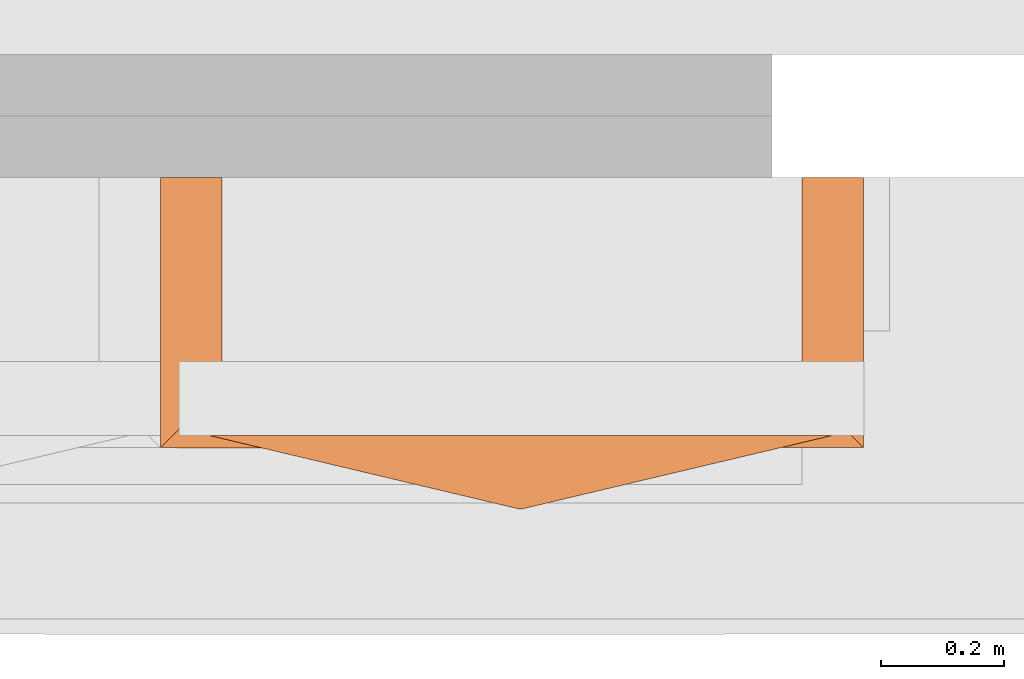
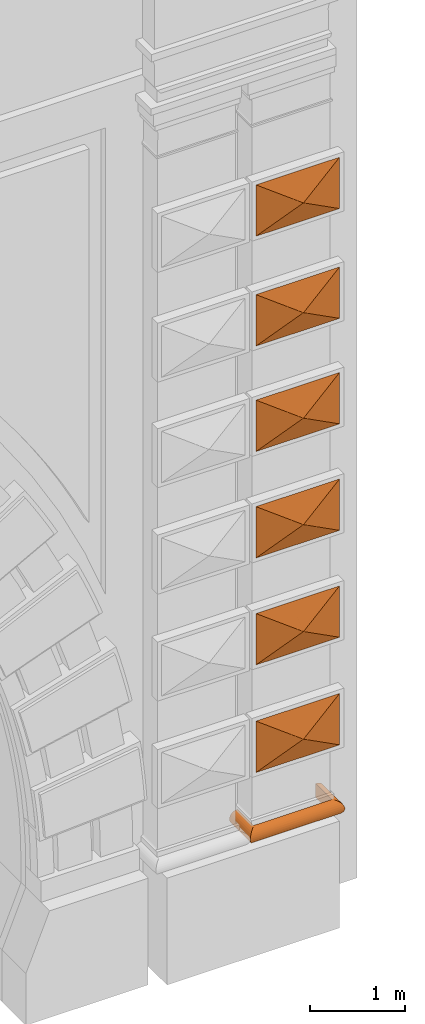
# One storey, part 43 of 44: 7 proxies.
"""IFC2X3 building model written with IfcOpenShell, lengths in metres."""

from ifc_helpers import new_model, entity, si_unit, converted_unit, derived_unit, direction, frame, origin, place, context, subcontext, project, spatial, faceted_brep, material, element, save


model = new_model("IFC2X3")

# Units and contexts
model_context = context("Model", 3, precision=1e-05, world=origin(), true_north=direction((6.12303176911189e-17, 1.0)))
body_context = subcontext(model_context, "Body", "Model", "MODEL_VIEW")
ifc_project = project(units=[si_unit("LENGTHUNIT", "METRE"), si_unit("AREAUNIT", "SQUARE_METRE"), si_unit("VOLUMEUNIT", "CUBIC_METRE"), converted_unit("PLANEANGLEUNIT", "DEGREE", entity("IfcRatioMeasure", 0.0174532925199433), si_unit("PLANEANGLEUNIT", "RADIAN"), dimensions=[0, 0, 0, 0, 0, 0, 0]), si_unit("MASSUNIT", "GRAM", prefix="KILO"), derived_unit("MASSDENSITYUNIT", [(si_unit("MASSUNIT", "GRAM", prefix="KILO"), 1), (si_unit("LENGTHUNIT", "METRE"), -3)]), si_unit("TIMEUNIT", "SECOND"), si_unit("FREQUENCYUNIT", "HERTZ"), si_unit("THERMODYNAMICTEMPERATUREUNIT", "DEGREE_CELSIUS"), derived_unit("THERMALTRANSMITTANCEUNIT", [(si_unit("MASSUNIT", "GRAM", prefix="KILO"), 1), (si_unit("THERMODYNAMICTEMPERATUREUNIT", "KELVIN"), -1), (si_unit("TIMEUNIT", "SECOND"), -3)]), derived_unit("VOLUMETRICFLOWRATEUNIT", [(si_unit("LENGTHUNIT", "METRE"), 3), (si_unit("TIMEUNIT", "SECOND"), -1)]), si_unit("ELECTRICCURRENTUNIT", "AMPERE"), si_unit("ELECTRICVOLTAGEUNIT", "VOLT"), si_unit("POWERUNIT", "WATT"), si_unit("FORCEUNIT", "NEWTON", prefix="KILO"), si_unit("ILLUMINANCEUNIT", "LUX"), si_unit("LUMINOUSFLUXUNIT", "LUMEN"), si_unit("LUMINOUSINTENSITYUNIT", "CANDELA"), derived_unit("USERDEFINED", [(si_unit("MASSUNIT", "GRAM", prefix="KILO"), -1), (si_unit("LENGTHUNIT", "METRE"), -2), (si_unit("TIMEUNIT", "SECOND"), 3), (si_unit("LUMINOUSFLUXUNIT", "LUMEN"), 1)]), derived_unit("LINEARVELOCITYUNIT", [(si_unit("LENGTHUNIT", "METRE"), 1), (si_unit("TIMEUNIT", "SECOND"), -1)]), si_unit("PRESSUREUNIT", "PASCAL"), derived_unit("USERDEFINED", [(si_unit("LENGTHUNIT", "METRE"), -2), (si_unit("MASSUNIT", "GRAM", prefix="KILO"), 1), (si_unit("TIMEUNIT", "SECOND"), -2)])], contexts=[model_context])

# Site, building, storey
site_placement = place(None, origin())
site = spatial("IfcSite", under=ifc_project, at=site_placement, Name="Default", CompositionType="ELEMENT")
building_placement = place(site_placement, origin())
building = spatial("IfcBuilding", under=site, at=building_placement, CompositionType="ELEMENT")
storey_placement = place(building_placement, origin())
storey = spatial("IfcBuildingStorey", under=building, at=storey_placement, Name="Livello 1", CompositionType="ELEMENT", Elevation=0.0)

# Proxies
ifc_material_1 = material(Name="Travertino")
proxy_1_placement = place(storey_placement, frame((10.3585918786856, -0.776050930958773, 1.36642590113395)))
element("IfcBuildingElementProxy", 1, at=proxy_1_placement, inside=storey, material=ifc_material_1, Name="Stratigrafia", context=body_context, shape_type="Brep", body=[
    faceted_brep([(0.07821631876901, 0.441583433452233, 0.00192470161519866), (0.0557157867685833, 0.441583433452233, 0.00823791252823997), (0.0355879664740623, 0.441583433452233, 0.0201123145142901), (0.0191801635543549, 0.441583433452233, 0.0367530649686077), (0.0075906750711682, 0.441583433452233, 0.0570462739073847), (0.00159527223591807, 0.441583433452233, 0.0796335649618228), (0.00159527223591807, 0.441583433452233, 0.103003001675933), (0.00759067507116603, 0.441583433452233, 0.125590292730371), (0.0191801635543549, 0.441583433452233, 0.145883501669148), (0.0355879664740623, 0.441583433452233, 0.162524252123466), (0.0557157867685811, 0.441583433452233, 0.174398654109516), (0.07821631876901, 0.441583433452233, 0.180711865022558), (0.101583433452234, 0.441583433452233, 0.181041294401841), (0.101583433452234, 0.441583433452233, 0.0015952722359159), (1.04559604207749, 0.441583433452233, 0.0015952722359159), (1.04559604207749, 0.441583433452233, 0.181041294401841), (1.06896315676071, 0.441583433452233, 0.180711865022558), (1.09146368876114, 0.441583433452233, 0.174398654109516), (1.11159150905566, 0.441583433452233, 0.162524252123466), (1.12799931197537, 0.441583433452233, 0.145883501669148), (1.13958880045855, 0.441583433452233, 0.125590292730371), (1.1455842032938, 0.441583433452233, 0.103003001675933), (1.1455842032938, 0.441583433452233, 0.0796335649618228), (1.13958880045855, 0.441583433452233, 0.0570462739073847), (1.12799931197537, 0.441583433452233, 0.0367530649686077), (1.11159150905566, 0.441583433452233, 0.0201123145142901), (1.09146368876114, 0.441583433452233, 0.00823791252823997), (1.06896315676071, 0.441583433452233, 0.00192470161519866), (0.101583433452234, 0.101583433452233, 0.181041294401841), (0.101583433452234, 0.101583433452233, 0.0015952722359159), (0.07821631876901, 0.0782163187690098, 0.00192470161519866), (0.0557157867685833, 0.0557157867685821, 0.00823791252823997), (0.0191801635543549, 0.0191801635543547, 0.0367530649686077), (0.0075906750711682, 0.00759067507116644, 0.0570462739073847), (0.0355879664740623, 0.0355879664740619, 0.0201123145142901), (0.00159527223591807, 0.00159527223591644, 0.0796335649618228), (0.00159527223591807, 0.00159527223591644, 0.103003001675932), (0.00759067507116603, 0.00759067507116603, 0.12559029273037), (0.0191801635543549, 0.0191801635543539, 0.145883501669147), (0.0355879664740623, 0.0355879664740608, 0.162524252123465), (0.0557157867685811, 0.0557157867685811, 0.174398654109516), (0.07821631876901, 0.0782163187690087, 0.180711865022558), (0.551583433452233, 0.101583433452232, 0.181041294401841), (1.00158343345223, 0.101583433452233, 0.181041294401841), (1.04559604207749, 0.101583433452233, 0.181041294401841), (1.04559604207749, 0.101583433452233, 0.0015952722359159), (1.00158343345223, 0.101583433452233, 0.0015952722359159), (0.551582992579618, 0.101583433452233, 0.0015952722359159), (0.632481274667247, 0.0839762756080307, 0.00127843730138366), (1.00158343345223, 0.0782163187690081, 0.180711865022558), (0.448867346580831, 0.0841064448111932, 0.18136842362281), (0.539899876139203, 0.0667610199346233, 0.178286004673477), (0.539899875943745, 0.0667610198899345, 0.00435056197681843), (1.00158343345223, 0.07821631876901, 0.00192470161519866), (1.00158343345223, 0.0557157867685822, 0.00823791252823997), (0.518585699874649, 0.0268436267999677, 0.0278998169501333), (1.00158343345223, 0.0191801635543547, 0.0367530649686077), (0.560796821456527, 0.0127263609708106, 0.0465232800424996), (1.00158343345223, 0.035587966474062, 0.0201123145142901), (0.518585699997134, 0.026843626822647, 0.154736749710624), (1.00158343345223, 0.0355879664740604, 0.162524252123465), (0.56225355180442, 0.0452662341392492, 0.169115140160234), (0.562253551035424, 0.0452662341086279, 0.0135214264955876), (1.00158343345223, 0.00759067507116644, 0.0570462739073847), (1.00158343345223, 0.00159527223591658, 0.0796335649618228), (0.504587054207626, 0.00385941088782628, 0.0681452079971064), (1.00158343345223, 0.00159527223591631, 0.103003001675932), (0.559410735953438, 0.000836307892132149, 0.0913182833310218), (0.504587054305, 0.00385941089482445, 0.114491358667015), (1.00158343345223, 0.0191801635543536, 0.145883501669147), (0.560796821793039, 0.0127263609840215, 0.136113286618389), (1.00158343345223, 0.00759067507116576, 0.12559029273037), (1.00158343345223, 0.0557157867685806, 0.174398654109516), (1.06896315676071, 0.0782163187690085, 0.180711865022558), (1.06896315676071, 0.0782163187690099, 0.00192470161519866), (1.09146368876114, 0.0557157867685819, 0.00823791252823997), (1.12799931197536, 0.0191801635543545, 0.0367530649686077), (1.13958880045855, 0.00759067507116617, 0.0570462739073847), (1.11159150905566, 0.0355879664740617, 0.0201123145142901), (1.1455842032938, 0.00159527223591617, 0.0796335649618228), (1.1455842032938, 0.00159527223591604, 0.103003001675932), (1.13958880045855, 0.00759067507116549, 0.12559029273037), (1.12799931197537, 0.0191801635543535, 0.145883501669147), (1.11159150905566, 0.0355879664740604, 0.162524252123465), (1.09146368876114, 0.0557157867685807, 0.174398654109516)], [[[0, 1, 2, 3, 4, 5, 6, 7, 8, 9, 10, 11, 12, 13]], [[14, 15, 16, 17, 18, 19, 20, 21, 22, 23, 24, 25, 26, 27]], [[13, 12, 28, 29]], [[30, 0, 13, 29]], [[31, 1, 0, 30]], [[32, 33, 4, 3]], [[3, 2, 34, 32]], [[34, 2, 1, 31]], [[35, 5, 4, 33]], [[35, 36, 6, 5]], [[6, 36, 37, 7]], [[38, 8, 7, 37]], [[9, 39, 40, 10]], [[40, 41, 11, 10]], [[39, 9, 8, 38]], [[11, 41, 28, 12]], [[29, 28, 42, 43, 44, 45, 46, 47]], [[48, 30, 29]], [[49, 50, 51]], [[46, 48, 29, 47]], [[52, 53, 54]], [[55, 56, 57]], [[42, 50, 49]], [[58, 56, 55]], [[59, 60, 61]], [[62, 52, 54]], [[40, 61, 51]], [[30, 48, 52]], [[63, 64, 65]], [[58, 55, 62]], [[48, 53, 52]], [[35, 33, 65]], [[64, 66, 67]], [[36, 68, 37]], [[34, 31, 62]], [[32, 34, 55]], [[32, 55, 57]], [[52, 62, 31]], [[56, 63, 57]], [[57, 33, 32]], [[69, 59, 70]], [[35, 65, 67]], [[28, 50, 42]], [[68, 66, 71]], [[53, 48, 46]], [[69, 70, 71]], [[72, 49, 51]], [[63, 65, 57]], [[61, 60, 72]], [[38, 70, 59]], [[59, 69, 60]], [[57, 65, 33]], [[68, 71, 70]], [[42, 49, 73, 44, 43]], [[67, 36, 35]], [[37, 68, 70]], [[54, 58, 62]], [[38, 59, 39]], [[66, 68, 67]], [[39, 59, 61]], [[50, 28, 41]], [[70, 38, 37]], [[40, 51, 41]], [[61, 40, 39]], [[51, 50, 41]], [[31, 30, 52]], [[36, 67, 68]], [[64, 67, 65]], [[62, 55, 34]], [[72, 51, 61]], [[74, 53, 46, 45]], [[75, 54, 53, 74]], [[76, 77, 63, 56]], [[56, 58, 78, 76]], [[78, 58, 54, 75]], [[79, 64, 63, 77]], [[79, 80, 66, 64]], [[66, 80, 81, 71]], [[82, 69, 71, 81]], [[60, 83, 84, 72]], [[84, 73, 49, 72]], [[83, 60, 69, 82]], [[45, 44, 15, 14]], [[45, 14, 27, 74]], [[26, 75, 74, 27]], [[24, 23, 77, 76]], [[78, 25, 24, 76]], [[75, 26, 25, 78]], [[77, 23, 22, 79]], [[22, 21, 80, 79]], [[81, 80, 21, 20]], [[19, 82, 81, 20]], [[17, 16, 73, 84]], [[84, 83, 18, 17]], [[83, 82, 19, 18]], [[44, 73, 16, 15]]]),
])
ifc_material_2 = material(Name="Piperno")
proxy_2_placement = place(storey_placement, frame((10.4392857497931, -0.87446749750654, 2.27958831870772)))
element("IfcBuildingElementProxy", 2, at=proxy_2_placement, inside=storey, material=ifc_material_2, Name="Stratigrafia", context=body_context, shape_type="Brep", body=[
    faceted_brep([(0.505641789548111, 0.0, 0.323456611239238), (0.505993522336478, 0.0, 0.32310487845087), (0.506345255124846, 0.0, 0.322753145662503), (0.506683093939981, 0.0, 0.322415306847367), (0.507203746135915, 0.0, 0.322935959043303), (0.507372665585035, 0.0, 0.323104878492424), (0.507724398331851, 0.0, 0.323456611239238), (0.507263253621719, 0.0, 0.323917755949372), (0.506683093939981, 0.0, 0.324497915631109), (0.506162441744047, 0.0, 0.323977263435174), (1.01413065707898, 0.12, 0.0), (0.842853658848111, 0.12, 0.0), (0.760597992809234, 0.12, 0.0), (0.507065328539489, 0.12, 0.0), (0.253532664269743, 0.12, 0.0), (0.171276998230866, 0.12, 0.0), (0.0, 0.12, 0.0), (0.0, 0.12, 0.65945975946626), (0.253532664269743, 0.12, 0.65945975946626), (0.507065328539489, 0.12, 0.65945975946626), (0.760597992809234, 0.12, 0.65945975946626), (1.01413065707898, 0.12, 0.65945975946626), (0.672736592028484, 0.0624385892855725, 0.498562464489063), (0.570456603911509, 0.0600000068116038, 0.49193922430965), (0.468888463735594, 0.0599999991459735, 0.491964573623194), (0.302298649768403, 0.048257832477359, 0.458579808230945), (0.810480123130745, 0.0717421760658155, 0.524336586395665), (0.374588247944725, 0.0600000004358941, 0.491814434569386), (0.198208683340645, 0.0729606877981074, 0.126793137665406), (0.465615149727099, 0.0600000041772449, 0.161224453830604), (0.546734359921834, 0.059999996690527, 0.161223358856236), (0.396548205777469, 0.0569466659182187, 0.169546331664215), (0.691854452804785, 0.0603313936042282, 0.160617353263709), (0.618950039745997, 0.0600000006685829, 0.161327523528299), (0.327782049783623, 0.0576525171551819, 0.167835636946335), (0.706232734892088, 0.0470393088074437, 0.196663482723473)], [[[0, 1, 2, 3, 4, 5, 6, 7, 8, 9]], [[10, 11, 12, 13, 14, 15, 16, 17, 18, 19, 20, 21]], [[22, 21, 20]], [[23, 20, 19]], [[24, 8, 23]], [[9, 25, 0]], [[24, 23, 19]], [[6, 26, 21, 22]], [[20, 23, 22]], [[7, 23, 8]], [[27, 9, 24]], [[24, 18, 27]], [[24, 19, 18]], [[23, 7, 22]], [[9, 8, 24]], [[17, 25, 27]], [[6, 22, 7]], [[17, 27, 18]], [[25, 9, 27]], [[25, 17, 16, 28, 0]], [[29, 13, 30]], [[2, 31, 29]], [[32, 33, 11]], [[30, 33, 4]], [[32, 5, 33]], [[3, 2, 29]], [[3, 29, 30]], [[14, 31, 15]], [[28, 16, 15]], [[14, 13, 29]], [[12, 30, 13]], [[4, 3, 30]], [[29, 31, 14]], [[2, 1, 31]], [[34, 15, 31]], [[28, 34, 0]], [[34, 31, 1]], [[0, 34, 1]], [[15, 34, 28]], [[32, 10, 35]], [[30, 12, 33]], [[12, 11, 33]], [[35, 6, 5]], [[4, 33, 5]], [[10, 32, 11]], [[5, 32, 35]], [[10, 21, 26, 6, 35]]]),
])
proxy_3_placement = place(storey_placement, frame((10.4392857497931, -0.87446749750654, 3.65810765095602)))
element("IfcBuildingElementProxy", 3, at=proxy_3_placement, inside=storey, material=ifc_material_2, Name="Stratigrafia", context=body_context, shape_type="Brep", body=[
    faceted_brep([(0.505641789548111, 0.0, 0.323456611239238), (0.505993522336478, 0.0, 0.323104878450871), (0.506345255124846, 0.0, 0.322753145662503), (0.506683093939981, 0.0, 0.322415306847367), (0.507203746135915, 0.0, 0.322935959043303), (0.507372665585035, 0.0, 0.323104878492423), (0.507724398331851, 0.0, 0.323456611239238), (0.507263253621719, 0.0, 0.323917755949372), (0.506683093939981, 0.0, 0.324497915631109), (0.506162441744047, 0.0, 0.323977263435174), (1.01413065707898, 0.12, 0.0), (0.842853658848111, 0.12, 0.0), (0.760597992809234, 0.12, 0.0), (0.507065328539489, 0.12, 0.0), (0.253532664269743, 0.12, 0.0), (0.171276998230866, 0.12, 0.0), (0.0, 0.12, 0.0), (0.0, 0.12, 0.65945975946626), (0.253532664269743, 0.12, 0.65945975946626), (0.507065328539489, 0.12, 0.65945975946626), (0.760597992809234, 0.12, 0.65945975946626), (1.01413065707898, 0.12, 0.65945975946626), (0.672736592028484, 0.0624385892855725, 0.498562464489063), (0.570456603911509, 0.0600000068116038, 0.49193922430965), (0.468888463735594, 0.0599999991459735, 0.491964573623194), (0.302298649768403, 0.048257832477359, 0.458579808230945), (0.810480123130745, 0.0717421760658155, 0.524336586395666), (0.374588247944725, 0.0600000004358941, 0.491814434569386), (0.198208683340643, 0.0729606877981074, 0.126793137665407), (0.465615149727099, 0.0600000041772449, 0.161224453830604), (0.546734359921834, 0.059999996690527, 0.161223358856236), (0.396548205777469, 0.0569466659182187, 0.169546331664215), (0.691854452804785, 0.0603313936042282, 0.160617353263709), (0.618950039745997, 0.0600000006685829, 0.161327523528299), (0.327782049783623, 0.0576525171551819, 0.167835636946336), (0.706232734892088, 0.0470393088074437, 0.196663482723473)], [[[0, 1, 2, 3, 4, 5, 6, 7, 8, 9]], [[10, 11, 12, 13, 14, 15, 16, 17, 18, 19, 20, 21]], [[22, 21, 20]], [[23, 20, 19]], [[24, 8, 23]], [[9, 25, 0]], [[24, 23, 19]], [[6, 26, 21, 22]], [[20, 23, 22]], [[7, 23, 8]], [[27, 9, 24]], [[24, 18, 27]], [[24, 19, 18]], [[23, 7, 22]], [[9, 8, 24]], [[17, 25, 27]], [[6, 22, 7]], [[17, 27, 18]], [[25, 9, 27]], [[25, 17, 16, 28, 0]], [[29, 13, 30]], [[2, 31, 29]], [[32, 33, 11]], [[30, 33, 4]], [[32, 5, 33]], [[3, 2, 29]], [[3, 29, 30]], [[14, 31, 15]], [[28, 16, 15]], [[14, 13, 29]], [[12, 30, 13]], [[4, 3, 30]], [[29, 31, 14]], [[2, 1, 31]], [[34, 15, 31]], [[28, 34, 0]], [[34, 31, 1]], [[0, 34, 1]], [[15, 34, 28]], [[32, 10, 35]], [[30, 12, 33]], [[12, 11, 33]], [[35, 6, 5]], [[4, 33, 5]], [[10, 32, 11]], [[5, 32, 35]], [[10, 21, 26, 6, 35]]]),
])
proxy_4_placement = place(storey_placement, frame((10.4392857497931, -0.87446749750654, 5.02776449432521)))
element("IfcBuildingElementProxy", 4, at=proxy_4_placement, inside=storey, material=ifc_material_2, Name="Stratigrafia", context=body_context, shape_type="Brep", body=[
    faceted_brep([(0.505641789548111, 0.0, 0.323456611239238), (0.505993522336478, 0.0, 0.323104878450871), (0.506345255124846, 0.0, 0.322753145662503), (0.506683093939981, 0.0, 0.322415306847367), (0.507203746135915, 0.0, 0.322935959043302), (0.507372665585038, 0.0, 0.323104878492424), (0.507724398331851, 0.0, 0.323456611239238), (0.507263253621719, 0.0, 0.323917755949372), (0.506683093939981, 0.0, 0.324497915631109), (0.506162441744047, 0.0, 0.323977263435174), (1.01413065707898, 0.12, 0.0), (0.842853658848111, 0.12, 0.0), (0.760597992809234, 0.12, 0.0), (0.507065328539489, 0.12, 0.0), (0.253532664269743, 0.12, 0.0), (0.171276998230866, 0.12, 0.0), (0.0, 0.12, 0.0), (0.0, 0.12, 0.65945975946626), (0.253532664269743, 0.12, 0.65945975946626), (0.507065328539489, 0.12, 0.65945975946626), (0.760597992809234, 0.12, 0.65945975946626), (1.01413065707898, 0.12, 0.65945975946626), (0.672736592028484, 0.0624385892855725, 0.498562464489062), (0.570456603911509, 0.0600000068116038, 0.49193922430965), (0.468888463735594, 0.0599999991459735, 0.491964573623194), (0.302298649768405, 0.048257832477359, 0.458579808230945), (0.810480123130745, 0.0717421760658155, 0.524336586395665), (0.374588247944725, 0.0600000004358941, 0.491814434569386), (0.198208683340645, 0.0729606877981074, 0.126793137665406), (0.465615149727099, 0.0600000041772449, 0.161224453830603), (0.546734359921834, 0.059999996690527, 0.161223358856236), (0.396548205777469, 0.0569466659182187, 0.169546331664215), (0.691854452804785, 0.0603313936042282, 0.16061735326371), (0.618950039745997, 0.0600000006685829, 0.1613275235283), (0.327782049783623, 0.0576525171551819, 0.167835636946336), (0.706232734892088, 0.0470393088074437, 0.196663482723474)], [[[0, 1, 2, 3, 4, 5, 6, 7, 8, 9]], [[10, 11, 12, 13, 14, 15, 16, 17, 18, 19, 20, 21]], [[22, 21, 20]], [[23, 20, 19]], [[24, 8, 23]], [[9, 25, 0]], [[24, 23, 19]], [[6, 26, 21, 22]], [[20, 23, 22]], [[7, 23, 8]], [[27, 9, 24]], [[24, 18, 27]], [[24, 19, 18]], [[23, 7, 22]], [[9, 8, 24]], [[17, 25, 27]], [[6, 22, 7]], [[17, 27, 18]], [[25, 9, 27]], [[25, 17, 16, 28, 0]], [[29, 13, 30]], [[2, 31, 29]], [[32, 33, 11]], [[30, 33, 4]], [[32, 5, 33]], [[3, 2, 29]], [[3, 29, 30]], [[14, 31, 15]], [[28, 16, 15]], [[14, 13, 29]], [[12, 30, 13]], [[4, 3, 30]], [[29, 31, 14]], [[2, 1, 31]], [[34, 15, 31]], [[28, 34, 0]], [[34, 31, 1]], [[0, 34, 1]], [[15, 34, 28]], [[32, 10, 35]], [[30, 12, 33]], [[12, 11, 33]], [[35, 6, 5]], [[4, 33, 5]], [[10, 32, 11]], [[5, 32, 35]], [[10, 21, 26, 6, 35]]]),
])
proxy_5_placement = place(storey_placement, frame((10.4392857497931, -0.87446749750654, 6.39218485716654)))
element("IfcBuildingElementProxy", 5, at=proxy_5_placement, inside=storey, material=ifc_material_2, Name="Stratigrafia", context=body_context, shape_type="Brep", body=[
    faceted_brep([(0.505641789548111, 0.0, 0.323456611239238), (0.505993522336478, 0.0, 0.323104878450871), (0.506345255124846, 0.0, 0.322753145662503), (0.506683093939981, 0.0, 0.322415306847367), (0.507203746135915, 0.0, 0.322935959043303), (0.507372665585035, 0.0, 0.323104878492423), (0.507724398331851, 0.0, 0.323456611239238), (0.507263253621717, 0.0, 0.323917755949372), (0.506683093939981, 0.0, 0.324497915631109), (0.506162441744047, 0.0, 0.323977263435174), (1.01413065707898, 0.12, 0.0), (0.842853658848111, 0.12, 0.0), (0.760597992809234, 0.12, 0.0), (0.507065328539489, 0.12, 0.0), (0.253532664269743, 0.12, 0.0), (0.171276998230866, 0.12, 0.0), (0.0, 0.12, 0.0), (0.0, 0.12, 0.65945975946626), (0.253532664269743, 0.12, 0.65945975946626), (0.507065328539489, 0.12, 0.65945975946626), (0.760597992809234, 0.12, 0.65945975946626), (1.01413065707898, 0.12, 0.65945975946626), (0.672736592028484, 0.0624385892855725, 0.498562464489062), (0.570456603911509, 0.0600000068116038, 0.49193922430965), (0.468888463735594, 0.0599999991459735, 0.491964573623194), (0.302298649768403, 0.048257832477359, 0.458579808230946), (0.810480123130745, 0.0717421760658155, 0.524336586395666), (0.374588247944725, 0.0600000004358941, 0.491814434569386), (0.198208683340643, 0.0729606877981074, 0.126793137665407), (0.465615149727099, 0.0600000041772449, 0.161224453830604), (0.546734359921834, 0.059999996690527, 0.161223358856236), (0.396548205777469, 0.0569466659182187, 0.169546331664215), (0.691854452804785, 0.0603313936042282, 0.16061735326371), (0.618950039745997, 0.0600000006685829, 0.1613275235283), (0.327782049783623, 0.0576525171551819, 0.167835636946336), (0.706232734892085, 0.0470393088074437, 0.196663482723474)], [[[0, 1, 2, 3, 4, 5, 6, 7, 8, 9]], [[10, 11, 12, 13, 14, 15, 16, 17, 18, 19, 20, 21]], [[22, 21, 20]], [[23, 20, 19]], [[24, 8, 23]], [[9, 25, 0]], [[24, 23, 19]], [[6, 26, 21, 22]], [[20, 23, 22]], [[7, 23, 8]], [[27, 9, 24]], [[24, 18, 27]], [[24, 19, 18]], [[23, 7, 22]], [[9, 8, 24]], [[17, 25, 27]], [[6, 22, 7]], [[17, 27, 18]], [[25, 9, 27]], [[25, 17, 16, 28, 0]], [[29, 13, 30]], [[2, 31, 29]], [[32, 33, 11]], [[30, 33, 4]], [[32, 5, 33]], [[3, 2, 29]], [[3, 29, 30]], [[14, 31, 15]], [[28, 16, 15]], [[14, 13, 29]], [[12, 30, 13]], [[4, 3, 30]], [[29, 31, 14]], [[2, 1, 31]], [[34, 15, 31]], [[28, 34, 0]], [[34, 31, 1]], [[0, 34, 1]], [[15, 34, 28]], [[32, 10, 35]], [[30, 12, 33]], [[12, 11, 33]], [[35, 6, 5]], [[4, 33, 5]], [[10, 32, 11]], [[5, 32, 35]], [[10, 21, 26, 6, 35]]]),
])
proxy_6_placement = place(storey_placement, frame((10.4392857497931, -0.87446749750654, 7.74389204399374)))
element("IfcBuildingElementProxy", 6, at=proxy_6_placement, inside=storey, material=ifc_material_2, Name="Stratigrafia", context=body_context, shape_type="Brep", body=[
    faceted_brep([(0.505641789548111, 0.0, 0.323456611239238), (0.505993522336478, 0.0, 0.323104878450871), (0.506345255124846, 0.0, 0.322753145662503), (0.506683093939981, 0.0, 0.322415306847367), (0.507203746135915, 0.0, 0.322935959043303), (0.507372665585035, 0.0, 0.323104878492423), (0.507724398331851, 0.0, 0.323456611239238), (0.507263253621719, 0.0, 0.323917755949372), (0.506683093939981, 0.0, 0.324497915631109), (0.506162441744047, 0.0, 0.323977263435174), (1.01413065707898, 0.12, 0.0), (0.842853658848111, 0.12, 0.0), (0.760597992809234, 0.12, 0.0), (0.507065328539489, 0.12, 0.0), (0.253532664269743, 0.12, 0.0), (0.171276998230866, 0.12, 0.0), (0.0, 0.12, 0.0), (0.0, 0.12, 0.65945975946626), (0.253532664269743, 0.12, 0.65945975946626), (0.507065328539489, 0.12, 0.65945975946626), (0.760597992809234, 0.12, 0.65945975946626), (1.01413065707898, 0.12, 0.65945975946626), (0.672736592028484, 0.0624385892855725, 0.498562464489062), (0.570456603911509, 0.0600000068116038, 0.49193922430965), (0.468888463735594, 0.0599999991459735, 0.491964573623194), (0.302298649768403, 0.048257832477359, 0.458579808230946), (0.810480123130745, 0.0717421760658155, 0.524336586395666), (0.374588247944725, 0.0600000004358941, 0.491814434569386), (0.198208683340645, 0.0729606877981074, 0.126793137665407), (0.465615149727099, 0.0600000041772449, 0.161224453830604), (0.546734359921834, 0.059999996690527, 0.161223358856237), (0.396548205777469, 0.0569466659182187, 0.169546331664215), (0.691854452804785, 0.0603313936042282, 0.16061735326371), (0.618950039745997, 0.0600000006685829, 0.1613275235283), (0.327782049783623, 0.0576525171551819, 0.167835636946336), (0.706232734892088, 0.0470393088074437, 0.196663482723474)], [[[0, 1, 2, 3, 4, 5, 6, 7, 8, 9]], [[10, 11, 12, 13, 14, 15, 16, 17, 18, 19, 20, 21]], [[22, 21, 20]], [[23, 20, 19]], [[24, 8, 23]], [[9, 25, 0]], [[24, 23, 19]], [[6, 26, 21, 22]], [[20, 23, 22]], [[7, 23, 8]], [[27, 9, 24]], [[24, 18, 27]], [[24, 19, 18]], [[23, 7, 22]], [[9, 8, 24]], [[17, 25, 27]], [[6, 22, 7]], [[17, 27, 18]], [[25, 9, 27]], [[25, 17, 16, 28, 0]], [[29, 13, 30]], [[2, 31, 29]], [[32, 33, 11]], [[30, 33, 4]], [[32, 5, 33]], [[3, 2, 29]], [[3, 29, 30]], [[14, 31, 15]], [[28, 16, 15]], [[14, 13, 29]], [[12, 30, 13]], [[4, 3, 30]], [[29, 31, 14]], [[2, 1, 31]], [[34, 15, 31]], [[28, 34, 0]], [[34, 31, 1]], [[0, 34, 1]], [[15, 34, 28]], [[32, 10, 35]], [[30, 12, 33]], [[12, 11, 33]], [[35, 6, 5]], [[4, 33, 5]], [[10, 32, 11]], [[5, 32, 35]], [[10, 21, 26, 6, 35]]]),
])
proxy_7_placement = place(storey_placement, frame((10.4392857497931, -0.87446749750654, 9.15040424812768)))
element("IfcBuildingElementProxy", 7, at=proxy_7_placement, inside=storey, material=ifc_material_2, Name="Stratigrafia", context=body_context, shape_type="Brep", body=[
    faceted_brep([(0.505641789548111, 0.0, 0.323456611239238), (0.505993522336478, 0.0, 0.323104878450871), (0.506345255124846, 0.0, 0.322753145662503), (0.506683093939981, 0.0, 0.322415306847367), (0.507203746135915, 0.0, 0.322935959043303), (0.507372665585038, 0.0, 0.323104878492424), (0.507724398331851, 0.0, 0.323456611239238), (0.507263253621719, 0.0, 0.323917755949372), (0.506683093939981, 0.0, 0.324497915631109), (0.506162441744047, 0.0, 0.323977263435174), (1.01413065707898, 0.12, 0.0), (0.842853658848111, 0.12, 0.0), (0.760597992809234, 0.12, 0.0), (0.507065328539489, 0.12, 0.0), (0.253532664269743, 0.12, 0.0), (0.171276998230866, 0.12, 0.0), (0.0, 0.12, 0.0), (0.0, 0.12, 0.659459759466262), (0.253532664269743, 0.12, 0.659459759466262), (0.507065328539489, 0.12, 0.659459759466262), (0.760597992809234, 0.12, 0.659459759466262), (1.01413065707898, 0.12, 0.659459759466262), (0.672736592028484, 0.0624385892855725, 0.498562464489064), (0.570456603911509, 0.0600000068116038, 0.491939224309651), (0.468888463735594, 0.0599999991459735, 0.491964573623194), (0.302298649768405, 0.048257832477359, 0.458579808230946), (0.810480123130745, 0.0717421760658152, 0.524336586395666), (0.374588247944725, 0.0600000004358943, 0.491814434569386), (0.198208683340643, 0.0729606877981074, 0.126793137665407), (0.465615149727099, 0.0600000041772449, 0.161224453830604), (0.546734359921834, 0.059999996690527, 0.161223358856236), (0.396548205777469, 0.0569466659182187, 0.169546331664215), (0.691854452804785, 0.0603313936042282, 0.160617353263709), (0.618950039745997, 0.0600000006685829, 0.1613275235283), (0.327782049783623, 0.0576525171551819, 0.167835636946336), (0.706232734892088, 0.0470393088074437, 0.196663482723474)], [[[0, 1, 2, 3, 4, 5, 6, 7, 8, 9]], [[10, 11, 12, 13, 14, 15, 16, 17, 18, 19, 20, 21]], [[22, 21, 20]], [[23, 20, 19]], [[24, 8, 23]], [[9, 25, 0]], [[24, 23, 19]], [[6, 26, 21, 22]], [[20, 23, 22]], [[7, 23, 8]], [[27, 9, 24]], [[24, 18, 27]], [[24, 19, 18]], [[23, 7, 22]], [[9, 8, 24]], [[17, 25, 27]], [[6, 22, 7]], [[17, 27, 18]], [[25, 9, 27]], [[25, 17, 16, 28, 0]], [[29, 13, 30]], [[2, 31, 29]], [[32, 33, 11]], [[30, 33, 4]], [[32, 5, 33]], [[3, 2, 29]], [[3, 29, 30]], [[14, 31, 15]], [[28, 16, 15]], [[14, 13, 29]], [[12, 30, 13]], [[4, 3, 30]], [[29, 31, 14]], [[2, 1, 31]], [[34, 15, 31]], [[28, 34, 0]], [[34, 31, 1]], [[0, 34, 1]], [[15, 34, 28]], [[32, 10, 35]], [[30, 12, 33]], [[12, 11, 33]], [[35, 6, 5]], [[4, 33, 5]], [[10, 32, 11]], [[5, 32, 35]], [[10, 21, 26, 6, 35]]]),
])

save(model, "model.ifc")
